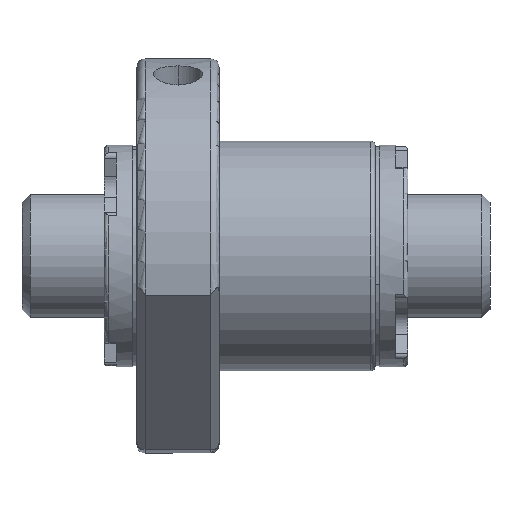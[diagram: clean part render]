
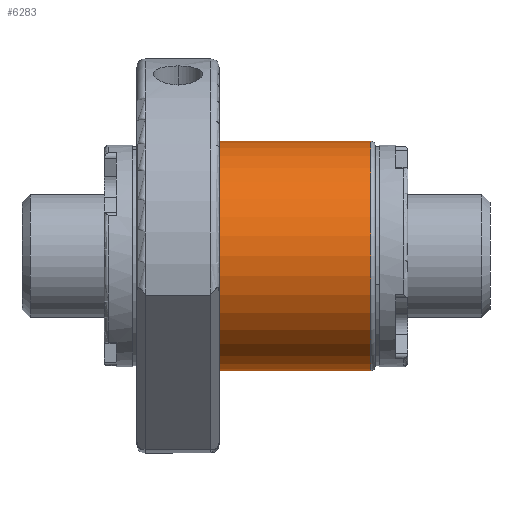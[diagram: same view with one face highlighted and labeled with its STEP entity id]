
A CAD part, front view. The second image highlights one B-rep face of the part: STEP entity #6283.
In plain terms, the highlighted cylindrical face has radius 14 mm (diameter 28 mm), a partial arc.
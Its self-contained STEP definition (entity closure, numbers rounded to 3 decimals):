
#274 = CARTESIAN_POINT ( 'NONE',  ( 32.5, 0., -14. ) ) ;
#792 = AXIS2_PLACEMENT_3D ( 'NONE', #4888, #1960, #3150 ) ;
#1296 = CARTESIAN_POINT ( 'NONE',  ( 0., 0., 14. ) ) ;
#1317 = ORIENTED_EDGE ( 'NONE', *, *, #2893, .T. ) ;
#1695 = VERTEX_POINT ( 'NONE', #3584 ) ;
#1770 = EDGE_CURVE ( 'NONE', #7481, #2334, #4397, .T. ) ;
#1860 = DIRECTION ( 'NONE',  ( -1., 0., 0. ) ) ;
#1874 = DIRECTION ( 'NONE',  ( 0., 0., -1. ) ) ;
#1960 = DIRECTION ( 'NONE',  ( -1., 0., 0. ) ) ;
#2019 = CARTESIAN_POINT ( 'NONE',  ( 14., 0., 14. ) ) ;
#2334 = VERTEX_POINT ( 'NONE', #2019 ) ;
#2357 = FACE_OUTER_BOUND ( 'NONE', #5575, .T. ) ;
#2499 = CARTESIAN_POINT ( 'NONE',  ( 32.5, 0., 0. ) ) ;
#2741 = AXIS2_PLACEMENT_3D ( 'NONE', #2499, #5434, #1874 ) ;
#2751 = LINE ( 'NONE', #6847, #7642 ) ;
#2858 = CARTESIAN_POINT ( 'NONE',  ( 14., 0., -14. ) ) ;
#2893 = EDGE_CURVE ( 'NONE', #1695, #2334, #7447, .T. ) ;
#3150 = DIRECTION ( 'NONE',  ( 0., 0., 1. ) ) ;
#3340 = ORIENTED_EDGE ( 'NONE', *, *, #1770, .F. ) ;
#3358 = CIRCLE ( 'NONE', #2741, 14. ) ;
#3360 = VERTEX_POINT ( 'NONE', #274 ) ;
#3584 = CARTESIAN_POINT ( 'NONE',  ( 32.5, 0., 14. ) ) ;
#3642 = ORIENTED_EDGE ( 'NONE', *, *, #7326, .F. ) ;
#3945 = DIRECTION ( 'NONE',  ( -1., 0., 0. ) ) ;
#4380 = ORIENTED_EDGE ( 'NONE', *, *, #6440, .T. ) ;
#4397 = CIRCLE ( 'NONE', #792, 14. ) ;
#4410 = VECTOR ( 'NONE', #1860, 1000. ) ;
#4888 = CARTESIAN_POINT ( 'NONE',  ( 14., 0., 0. ) ) ;
#5244 = AXIS2_PLACEMENT_3D ( 'NONE', #7471, #3945, #6304 ) ;
#5434 = DIRECTION ( 'NONE',  ( -1., 0., 0. ) ) ;
#5531 = DIRECTION ( 'NONE',  ( -1., 0., 0. ) ) ;
#5575 = EDGE_LOOP ( 'NONE', ( #3642, #4380, #1317, #3340 ) ) ;
#6283 = ADVANCED_FACE ( 'NONE', ( #2357 ), #7345, .T. ) ;
#6304 = DIRECTION ( 'NONE',  ( 0., 0., 1. ) ) ;
#6440 = EDGE_CURVE ( 'NONE', #3360, #1695, #3358, .T. ) ;
#6847 = CARTESIAN_POINT ( 'NONE',  ( 0., 0., -14. ) ) ;
#7326 = EDGE_CURVE ( 'NONE', #3360, #7481, #2751, .T. ) ;
#7345 = CYLINDRICAL_SURFACE ( 'NONE', #5244, 14. ) ;
#7447 = LINE ( 'NONE', #1296, #4410 ) ;
#7471 = CARTESIAN_POINT ( 'NONE',  ( 0., 0., 0. ) ) ;
#7481 = VERTEX_POINT ( 'NONE', #2858 ) ;
#7642 = VECTOR ( 'NONE', #5531, 1000. ) ;
